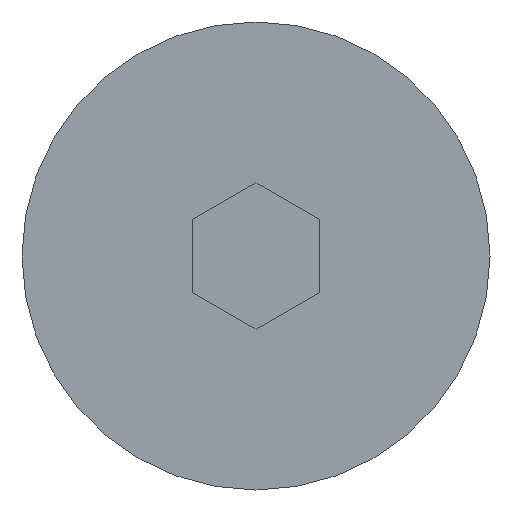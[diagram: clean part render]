
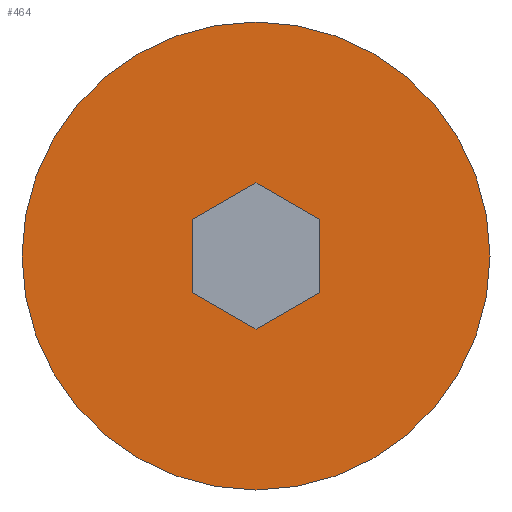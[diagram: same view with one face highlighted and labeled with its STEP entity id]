
A CAD part, left-side view. The second image highlights one B-rep face of the part: STEP entity #464.
In plain terms, the highlighted planar face has unit normal (-1, 0, 0).
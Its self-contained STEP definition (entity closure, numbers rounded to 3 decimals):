
#5 = DIRECTION ( 'NONE',  ( 0., 0., 1. ) ) ;
#7 = CARTESIAN_POINT ( 'NONE',  ( 0., 0., 0. ) ) ;
#19 = EDGE_CURVE ( 'NONE', #133, #366, #261, .T. ) ;
#46 = ORIENTED_EDGE ( 'NONE', *, *, #60, .T. ) ;
#60 = EDGE_CURVE ( 'NONE', #366, #133, #451, .T. ) ;
#68 = VECTOR ( 'NONE', #228, 1000. ) ;
#75 = CARTESIAN_POINT ( 'NONE',  ( 0., -2.165, -1.25 ) ) ;
#85 = VECTOR ( 'NONE', #237, 1000. ) ;
#92 = VERTEX_POINT ( 'NONE', #434 ) ;
#93 = VECTOR ( 'NONE', #260, 1000. ) ;
#105 = CARTESIAN_POINT ( 'NONE',  ( 0., 0., -8. ) ) ;
#116 = AXIS2_PLACEMENT_3D ( 'NONE', #7, #240, #473 ) ;
#118 = CARTESIAN_POINT ( 'NONE',  ( 0., -2.165, 1.25 ) ) ;
#121 = DIRECTION ( 'NONE',  ( 1., 0., 0. ) ) ;
#133 = VERTEX_POINT ( 'NONE', #356 ) ;
#151 = FACE_BOUND ( 'NONE', #495, .T. ) ;
#156 = DIRECTION ( 'NONE',  ( 0., -0.866, 0.5 ) ) ;
#169 = VERTEX_POINT ( 'NONE', #349 ) ;
#179 = VECTOR ( 'NONE', #503, 1000. ) ;
#190 = LINE ( 'NONE', #118, #93 ) ;
#191 = PLANE ( 'NONE',  #345 ) ;
#205 = DIRECTION ( 'NONE',  ( -1., 0., 0. ) ) ;
#218 = CARTESIAN_POINT ( 'NONE',  ( 0., -2.165, -1.25 ) ) ;
#228 = DIRECTION ( 'NONE',  ( 0., -0.866, -0.5 ) ) ;
#232 = ORIENTED_EDGE ( 'NONE', *, *, #462, .F. ) ;
#235 = VERTEX_POINT ( 'NONE', #218 ) ;
#237 = DIRECTION ( 'NONE',  ( 0., 0., -1. ) ) ;
#240 = DIRECTION ( 'NONE',  ( -1., 0., 0. ) ) ;
#254 = LINE ( 'NONE', #435, #85 ) ;
#260 = DIRECTION ( 'NONE',  ( 0., 0.866, 0.5 ) ) ;
#261 = CIRCLE ( 'NONE', #392, 8. ) ;
#272 = CARTESIAN_POINT ( 'NONE',  ( 0., 0., 0. ) ) ;
#276 = ORIENTED_EDGE ( 'NONE', *, *, #308, .F. ) ;
#278 = DIRECTION ( 'NONE',  ( 0., 0., 1. ) ) ;
#286 = VECTOR ( 'NONE', #156, 1000. ) ;
#308 = EDGE_CURVE ( 'NONE', #450, #466, #190, .T. ) ;
#318 = DIRECTION ( 'NONE',  ( 0., 0., -1. ) ) ;
#319 = ORIENTED_EDGE ( 'NONE', *, *, #445, .F. ) ;
#332 = ORIENTED_EDGE ( 'NONE', *, *, #493, .F. ) ;
#337 = EDGE_CURVE ( 'NONE', #466, #92, #492, .T. ) ;
#341 = CARTESIAN_POINT ( 'NONE',  ( 0., 2.165, -1.25 ) ) ;
#345 = AXIS2_PLACEMENT_3D ( 'NONE', #272, #121, #318 ) ;
#346 = CARTESIAN_POINT ( 'NONE',  ( 0., 0., 2.5 ) ) ;
#349 = CARTESIAN_POINT ( 'NONE',  ( 0., 0., -2.5 ) ) ;
#356 = CARTESIAN_POINT ( 'NONE',  ( 0., 0., 8. ) ) ;
#362 = VERTEX_POINT ( 'NONE', #341 ) ;
#365 = VECTOR ( 'NONE', #5, 1000. ) ;
#366 = VERTEX_POINT ( 'NONE', #105 ) ;
#375 = LINE ( 'NONE', #506, #68 ) ;
#385 = ORIENTED_EDGE ( 'NONE', *, *, #337, .F. ) ;
#388 = LINE ( 'NONE', #507, #286 ) ;
#392 = AXIS2_PLACEMENT_3D ( 'NONE', #481, #205, #278 ) ;
#401 = CARTESIAN_POINT ( 'NONE',  ( 0., -2.165, 1.25 ) ) ;
#422 = EDGE_CURVE ( 'NONE', #169, #235, #388, .T. ) ;
#430 = ORIENTED_EDGE ( 'NONE', *, *, #19, .T. ) ;
#434 = CARTESIAN_POINT ( 'NONE',  ( 0., 2.165, 1.25 ) ) ;
#435 = CARTESIAN_POINT ( 'NONE',  ( 0., 2.165, 1.25 ) ) ;
#445 = EDGE_CURVE ( 'NONE', #362, #169, #375, .T. ) ;
#450 = VERTEX_POINT ( 'NONE', #401 ) ;
#451 = CIRCLE ( 'NONE', #116, 8. ) ;
#456 = FACE_OUTER_BOUND ( 'NONE', #491, .T. ) ;
#462 = EDGE_CURVE ( 'NONE', #235, #450, #489, .T. ) ;
#464 = ADVANCED_FACE ( 'NONE', ( #151, #456 ), #191, .F. ) ;
#466 = VERTEX_POINT ( 'NONE', #498 ) ;
#471 = ORIENTED_EDGE ( 'NONE', *, *, #422, .F. ) ;
#473 = DIRECTION ( 'NONE',  ( 0., 0., 1. ) ) ;
#481 = CARTESIAN_POINT ( 'NONE',  ( 0., 0., 0. ) ) ;
#489 = LINE ( 'NONE', #75, #365 ) ;
#491 = EDGE_LOOP ( 'NONE', ( #430, #46 ) ) ;
#492 = LINE ( 'NONE', #346, #179 ) ;
#493 = EDGE_CURVE ( 'NONE', #92, #362, #254, .T. ) ;
#495 = EDGE_LOOP ( 'NONE', ( #385, #276, #232, #471, #319, #332 ) ) ;
#498 = CARTESIAN_POINT ( 'NONE',  ( 0., 0., 2.5 ) ) ;
#503 = DIRECTION ( 'NONE',  ( 0., 0.866, -0.5 ) ) ;
#506 = CARTESIAN_POINT ( 'NONE',  ( 0., 2.165, -1.25 ) ) ;
#507 = CARTESIAN_POINT ( 'NONE',  ( 0., 0., -2.5 ) ) ;
